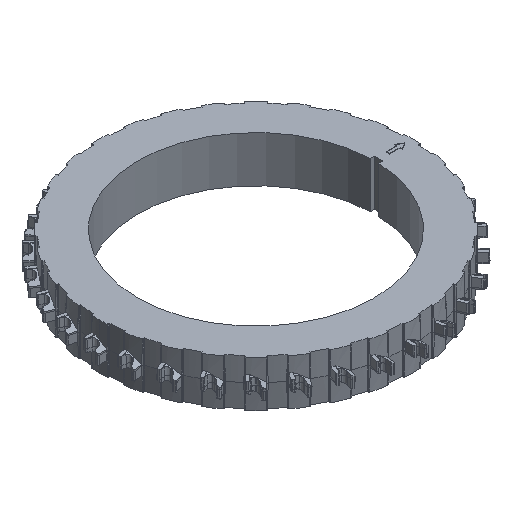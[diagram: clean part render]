
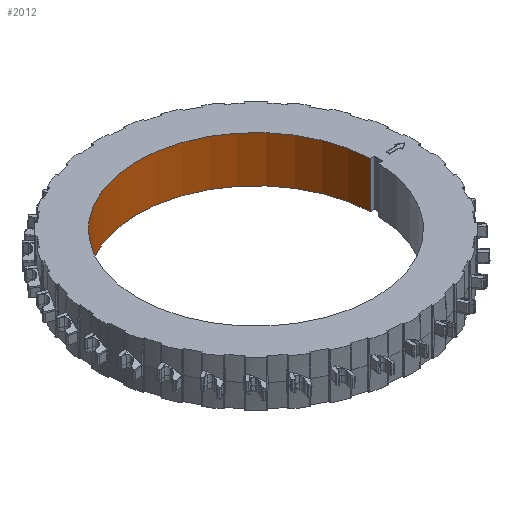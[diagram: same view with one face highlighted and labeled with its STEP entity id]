
A CAD part, isometric view. The second image highlights one B-rep face of the part: STEP entity #2012.
In plain terms, the highlighted cylindrical face has radius 56.6 mm (diameter 113.2 mm), a partial arc.
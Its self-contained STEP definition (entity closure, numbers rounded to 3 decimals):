
#1175 = EDGE_CURVE ( 'NONE', #27647, #15437, #29350, .T. ) ;
#2012 = ADVANCED_FACE ( 'NONE', ( #44671 ), #30217, .F. ) ;
#3347 = ORIENTED_EDGE ( 'NONE', *, *, #19472, .T. ) ;
#4026 = ORIENTED_EDGE ( 'NONE', *, *, #27493, .T. ) ;
#4037 = LINE ( 'NONE', #21241, #14682 ) ;
#6162 = CARTESIAN_POINT ( 'NONE',  ( -56.6, 180., -9. ) ) ;
#6595 = CARTESIAN_POINT ( 'NONE',  ( 0., 180., 0.006 ) ) ;
#7734 = CARTESIAN_POINT ( 'NONE',  ( 0., 180., -9. ) ) ;
#11581 = CARTESIAN_POINT ( 'NONE',  ( -56.6, 180., -31. ) ) ;
#11728 = DIRECTION ( 'NONE',  ( 1., 0., 0. ) ) ;
#12466 = CARTESIAN_POINT ( 'NONE',  ( 56.565, 182., -31. ) ) ;
#13724 = DIRECTION ( 'NONE',  ( 0., 0., 1. ) ) ;
#13799 = AXIS2_PLACEMENT_3D ( 'NONE', #7734, #35807, #11728 ) ;
#14682 = VECTOR ( 'NONE', #25299, 1000. ) ;
#14871 = ORIENTED_EDGE ( 'NONE', *, *, #1175, .T. ) ;
#15273 = VERTEX_POINT ( 'NONE', #12466 ) ;
#15437 = VERTEX_POINT ( 'NONE', #6162 ) ;
#16788 = ORIENTED_EDGE ( 'NONE', *, *, #33164, .T. ) ;
#17823 = DIRECTION ( 'NONE',  ( 0., 0., -1. ) ) ;
#19472 = EDGE_CURVE ( 'NONE', #15273, #27647, #46917, .T. ) ;
#21241 = CARTESIAN_POINT ( 'NONE',  ( -56.6, 180., 0.006 ) ) ;
#21305 = AXIS2_PLACEMENT_3D ( 'NONE', #41864, #17823, #45878 ) ;
#22236 = CIRCLE ( 'NONE', #21305, 56.6 ) ;
#25299 = DIRECTION ( 'NONE',  ( 0., 0., -1. ) ) ;
#26987 = VERTEX_POINT ( 'NONE', #11581 ) ;
#27493 = EDGE_CURVE ( 'NONE', #26987, #15273, #22236, .T. ) ;
#27647 = VERTEX_POINT ( 'NONE', #34855 ) ;
#29350 = CIRCLE ( 'NONE', #13799, 56.6 ) ;
#30217 = CYLINDRICAL_SURFACE ( 'NONE', #41412, 56.6 ) ;
#30586 = DIRECTION ( 'NONE',  ( -1., 0., 0. ) ) ;
#33164 = EDGE_CURVE ( 'NONE', #15437, #26987, #4037, .T. ) ;
#34652 = DIRECTION ( 'NONE',  ( 0., 0., -1. ) ) ;
#34855 = CARTESIAN_POINT ( 'NONE',  ( 56.565, 182., -9. ) ) ;
#35807 = DIRECTION ( 'NONE',  ( 0., 0., 1. ) ) ;
#36298 = VECTOR ( 'NONE', #13724, 1000. ) ;
#41412 = AXIS2_PLACEMENT_3D ( 'NONE', #6595, #34652, #30586 ) ;
#41820 = CARTESIAN_POINT ( 'NONE',  ( 56.565, 182., 0.006 ) ) ;
#41864 = CARTESIAN_POINT ( 'NONE',  ( 0., 180., -31. ) ) ;
#44671 = FACE_OUTER_BOUND ( 'NONE', #45505, .T. ) ;
#45505 = EDGE_LOOP ( 'NONE', ( #14871, #16788, #4026, #3347 ) ) ;
#45878 = DIRECTION ( 'NONE',  ( -1., 0., 0. ) ) ;
#46917 = LINE ( 'NONE', #41820, #36298 ) ;
